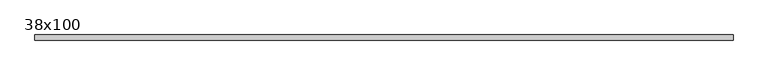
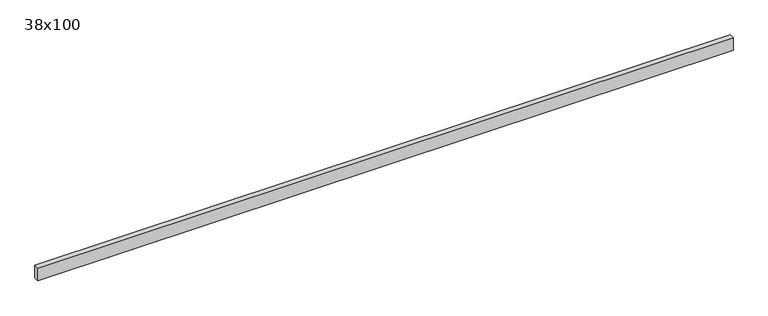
"""IFC4 building model written with IfcOpenShell, lengths in millimetres: beam geometry, Poutre - Bois de construction de dimensions courantes : 38x100."""

from ifc_helpers import new_model, si_unit, frame, origin, place, context, project, spatial, polyline, outline, extrude, source, transform, mapped, element, save


def beam_38x100_bd6f2aef(model_context):
    return source(origin(), model_context, "Body", "SweptSolid", [
        extrude(outline(polyline([(2612.0, 19.05), (2612.0, -19.05), (-2612.0, -19.05), (-2612.0, 19.05), (2612.0, 19.05)])), frame((0.0, 0.0, -50.0), z_axis=(0.0, 0.0, 1.0), x_axis=(1.0, 0.0, 0.0)), (0.0, 0.0, 1.0), 100.0),
    ])


if __name__ == "__main__":
    model = new_model("IFC4")
    model_context = context("Model", 3, world=origin())
    ifc_project = project(units=[si_unit("LENGTHUNIT", "METRE", prefix="MILLI")], contexts=[model_context])
    site = spatial("IfcSite", under=ifc_project)
    building = spatial("IfcBuilding", under=site)
    placement = place(None, origin())
    beam_38x100_shape = beam_38x100_bd6f2aef(model_context)
    element("IfcBeam", 1, ObjectType="Poutre - Bois de construction de dimensions courantes : 38x100", at=placement, inside=building, context=model_context, shape_type="MappedRepresentation", body=[
        mapped(beam_38x100_shape, transform((0.0, 0.0, 0.0), x_axis=(1.0, 0.0, 0.0), y_axis=(0.0, 1.0, 0.0), z_axis=(0.0, 0.0, 1.0))),
    ])
    save(model, "model.ifc")
